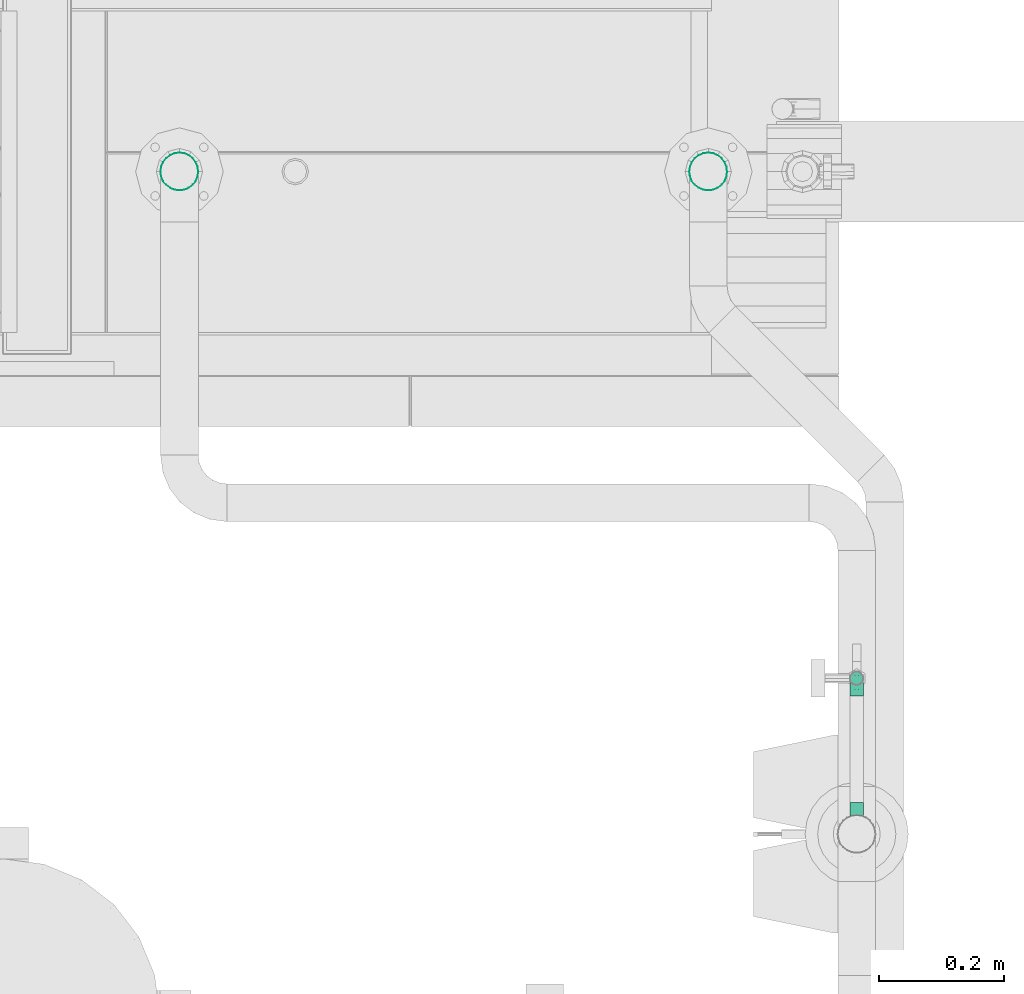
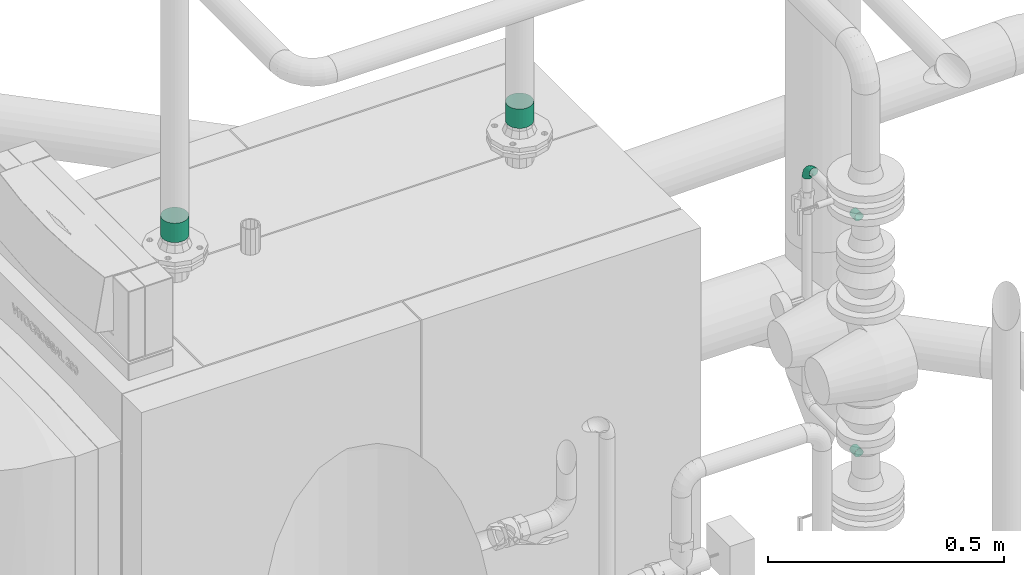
# One storey, part 197 of 374: 5 flow segments.
"""IFC2X3 building model written with IfcOpenShell, lengths in metres."""

from ifc_helpers import new_model, si_unit, direction, origin, place, context, subcontext, project, spatial, open_shell, surface_model, source, transform, mapped, element, save


model = new_model("IFC2X3")

# Units and contexts
model_context = context("Model", 3, precision=1e-05, world=origin(), true_north=direction((-0.4480736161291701, 0.8939966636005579)))
body_context = subcontext(model_context, "Body", "Model", "MODEL_VIEW")
ifc_project = project(units=[si_unit("LENGTHUNIT", "METRE"), si_unit("AREAUNIT", "SQUARE_METRE"), si_unit("VOLUMEUNIT", "CUBIC_METRE"), si_unit("PLANEANGLEUNIT", "RADIAN"), si_unit("THERMODYNAMICTEMPERATUREUNIT", "KELVIN"), si_unit("MASSUNIT", "GRAM", prefix="KILO"), si_unit("TIMEUNIT", "SECOND")], contexts=[model_context])

# Site, building, storey
site_placement = place(None, origin())
site = spatial("IfcSite", under=ifc_project, at=site_placement, Name="Site 1", CompositionType="ELEMENT")
building_placement = place(site_placement, origin())
building = spatial("IfcBuilding", under=site, at=building_placement, Name="Undefined", CompositionType="ELEMENT")
storey_placement = place(building_placement, origin())
storey = spatial("IfcBuildingStorey", under=building, at=storey_placement, Name="Rez de chauss\x8ee", CompositionType="ELEMENT", Elevation=0.0)

# Flow segments
shared_shape_1 = source(origin(), body_context, "Body", "SurfaceModel", [
    surface_model("IfcFaceBasedSurfaceModel", [(0.010089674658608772, 0.0, 1.33226763e-15), (0.010042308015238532, 0.002779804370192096, 1.33226763e-15), (4.73666433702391e-05, 0.0027798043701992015, 4.4408921e-16), (0.0, 0.0, 0.0), (-0.009607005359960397, 0.00311462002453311, -0.0025651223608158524), (-0.00974587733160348, 0.0003379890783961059, -0.0025894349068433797), (-0.01826287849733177, 0.003761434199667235, -0.007520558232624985), (-0.018483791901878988, 0.000990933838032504, -0.007591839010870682), (-0.025330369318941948, 0.004676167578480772, -0.014528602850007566), (-0.025618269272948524, 0.001914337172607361, -0.014666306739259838), (-0.030327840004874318, 0.005796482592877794, -0.023111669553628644), (-0.030663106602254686, 0.003045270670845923, -0.023330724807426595), (-0.03291472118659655, 0.00704603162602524, -0.03268483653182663), (-0.03327450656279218, 0.004306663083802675, -0.0329946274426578), (0.009903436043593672, 0.005463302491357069, -0.000713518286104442), (0.000186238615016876, 0.005463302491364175, -0.0007135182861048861), (-0.009199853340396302, 0.005788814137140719, -0.0032073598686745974), (-0.017615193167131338, 0.006417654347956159, -0.008025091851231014), (-0.02448628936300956, 0.007306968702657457, -0.014838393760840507), (-0.029344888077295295, 0.008396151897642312, -0.023182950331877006), (-0.031859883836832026, 0.009610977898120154, -0.0324900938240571), (0.009682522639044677, 0.007867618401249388, -0.002091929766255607), (0.0004071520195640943, 0.007867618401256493, -0.002091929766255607), (-0.008552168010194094, 0.008178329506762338, -0.004472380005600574), (-0.0165848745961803, 0.008778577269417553, -0.00907105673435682), (-0.023143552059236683, 0.00962745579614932, -0.015574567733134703), (-0.027781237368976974, 0.010667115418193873, -0.023539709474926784), (-0.030181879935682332, 0.011826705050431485, -0.03242367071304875), (0.009394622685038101, 0.009828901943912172, -0.0040412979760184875), (0.000695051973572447, 0.009828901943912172, -0.0040412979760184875), (-0.007708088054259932, 0.010120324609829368, -0.006273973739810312), (-0.015242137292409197, 0.010683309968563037, -0.010587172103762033), (-0.02139366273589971, 0.011479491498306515, -0.01668695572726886), (-0.0257434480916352, 0.012454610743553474, -0.02415763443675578), (-0.027995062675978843, 0.013542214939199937, -0.03249009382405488), (0.00905935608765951, 0.011213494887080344, -0.006428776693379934), (0.0010303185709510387, 0.01121349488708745, -0.006428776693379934), (-0.006725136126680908, 0.011482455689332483, -0.00848936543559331), (-0.0136784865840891, 0.01200204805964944, -0.01247011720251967), (-0.01935587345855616, 0.012736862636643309, -0.018099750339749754), (-0.02337039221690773, 0.013636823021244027, -0.024994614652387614), (-0.02544846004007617, 0.014640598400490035, -0.03268483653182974), (0.008699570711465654, 0.01192703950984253, -0.009091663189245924), (0.001390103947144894, 0.01192703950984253, -0.009091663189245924), (-0.005670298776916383, 0.01217189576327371, -0.010967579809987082), (-0.01200048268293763, 0.012644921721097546, -0.014591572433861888), (-0.017169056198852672, 0.013313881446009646, -0.01971667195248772), (-0.02082378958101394, 0.014133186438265, -0.025993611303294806), (-0.02271561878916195, 0.01504700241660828, -0.032994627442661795), (0.008339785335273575, 0.011920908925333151, -0.011848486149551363), (0.0017498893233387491, 0.011920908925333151, -0.011848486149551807), (-0.0046154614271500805, 0.012141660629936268, -0.013539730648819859), (-0.01032247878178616, 0.012568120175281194, -0.016806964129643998), (-0.014982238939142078, 0.013171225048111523, -0.02142753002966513), (-0.018277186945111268, 0.01390987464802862, -0.027086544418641), (-0.01998277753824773, 0.01473373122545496, -0.033398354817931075), (0.008004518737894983, 0.011195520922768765, -0.01451137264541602), (0.0020851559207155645, 0.011195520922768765, -0.014511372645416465), (-0.003632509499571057, 0.011393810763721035, -0.016030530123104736), (-0.008758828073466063, 0.011776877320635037, -0.018965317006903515), (-0.01294444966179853, 0.012318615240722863, -0.023115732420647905), (-0.01590413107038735, 0.012982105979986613, -0.028198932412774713), (-0.017436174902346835, 0.013722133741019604, -0.03386850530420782), (0.007716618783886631, 0.009800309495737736, -0.016898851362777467), (0.002373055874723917, 0.009800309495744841, -0.016898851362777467), (-0.0027884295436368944, 0.009979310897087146, -0.018270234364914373), (-0.007416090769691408, 0.010325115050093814, -0.020919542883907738), (-0.01119456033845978, 0.010814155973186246, -0.024666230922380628), (-0.013866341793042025, 0.011413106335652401, -0.02925496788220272), (-0.015249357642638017, 0.012081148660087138, -0.03437303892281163), (0.007495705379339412, 0.007830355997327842, -0.018848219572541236), (0.002593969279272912, 0.007830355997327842, -0.018848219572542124), (-0.00214074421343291, 0.00799455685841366, -0.02010621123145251), (-0.006385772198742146, 0.008311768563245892, -0.022536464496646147), (-0.009851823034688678, 0.008760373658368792, -0.025973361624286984), (-0.012302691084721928, 0.00930980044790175, -0.03018268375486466), (-0.013571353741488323, 0.009922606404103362, -0.034877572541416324), (0.007356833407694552, 0.0054199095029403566, -0.020226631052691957), (0.002732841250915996, 0.005419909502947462, -0.0202266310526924), (-0.0017335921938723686, 0.005574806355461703, -0.021413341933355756), (-0.005738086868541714, 0.005874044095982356, -0.023705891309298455), (-0.009007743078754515, 0.006297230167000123, -0.026948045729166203), (-0.011319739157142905, 0.006815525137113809, -0.030918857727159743), (-0.012516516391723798, 0.007393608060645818, -0.03534772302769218), (0.007309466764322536, 0.0027332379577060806, -0.020940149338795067), (0.0027802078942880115, 0.002733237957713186, -0.020940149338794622), (-0.001594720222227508, 0.0028849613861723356, -0.022102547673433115), (-0.0055171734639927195, 0.0031780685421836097, -0.024348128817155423), (-0.008719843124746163, 0.003592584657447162, -0.027523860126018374), (-0.010984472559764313, 0.004100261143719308, -0.03141332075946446), (-0.012156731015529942, 0.004666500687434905, -0.035751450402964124), (0.007356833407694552, -4.656641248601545e-05, -0.020940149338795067), (0.002732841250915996, -4.6566412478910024e-05, -0.02094014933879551), (-0.0017335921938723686, 0.00010833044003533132, -0.022126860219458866), (-0.005738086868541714, 0.00040756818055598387, -0.024419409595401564), (-0.009007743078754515, 0.0008307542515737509, -0.027661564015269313), (-0.011319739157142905, 0.0013490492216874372, -0.03163237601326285), (-0.012516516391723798, 0.0019271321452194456, -0.03606124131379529), (0.007495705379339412, -0.002730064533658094, -0.020226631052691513), (0.002593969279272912, -0.002730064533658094, -0.0202266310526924), (-0.00214074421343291, -0.002565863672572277, -0.021484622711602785), (-0.006385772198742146, -0.002248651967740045, -0.023914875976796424), (-0.009851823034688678, -0.0018000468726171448, -0.02735177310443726), (-0.012302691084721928, -0.0012506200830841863, -0.031561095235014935), (-0.013571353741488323, -0.0006378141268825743, -0.0362559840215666), (0.007716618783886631, -0.005134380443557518, -0.01884821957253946), (0.002373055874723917, -0.0051343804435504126, -0.01884821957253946), (-0.0027884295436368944, -0.004955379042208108, -0.020219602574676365), (-0.007416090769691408, -0.00460957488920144, -0.02286891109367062), (-0.01119456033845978, -0.004120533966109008, -0.026615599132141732), (-0.013866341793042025, -0.0035215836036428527, -0.031204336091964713), (-0.015249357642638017, -0.002853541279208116, -0.03632240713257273), (0.008004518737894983, -0.007095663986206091, -0.01689885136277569), (0.0020851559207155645, -0.007095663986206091, -0.016898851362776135), (-0.003632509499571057, -0.006897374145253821, -0.018418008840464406), (-0.008758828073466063, -0.006514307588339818, -0.021352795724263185), (-0.01294444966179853, -0.005972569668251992, -0.025503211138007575), (-0.01590413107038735, -0.005309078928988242, -0.030586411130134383), (-0.017436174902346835, -0.0045690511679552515, -0.03625598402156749), (0.008339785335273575, -0.008480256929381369, -0.014511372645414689), (0.0017498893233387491, -0.008480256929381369, -0.014511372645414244), (-0.0046154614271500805, -0.008259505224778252, -0.016202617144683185), (-0.01032247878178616, -0.007833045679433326, -0.019469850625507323), (-0.014982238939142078, -0.007229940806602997, -0.024090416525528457), (-0.018277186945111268, -0.006491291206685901, -0.029749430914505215), (-0.01998277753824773, -0.00566743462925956, -0.0360612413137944), (0.008699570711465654, -0.009193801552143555, -0.011848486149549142), (0.001390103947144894, -0.009193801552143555, -0.011848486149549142), (-0.005670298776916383, -0.008948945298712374, -0.013724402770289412), (-0.01200048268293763, -0.008475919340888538, -0.017348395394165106), (-0.017169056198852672, -0.007806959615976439, -0.022473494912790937), (-0.02082378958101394, -0.006987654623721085, -0.028750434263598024), (-0.02271561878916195, -0.006073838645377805, -0.035751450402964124), (0.00905935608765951, -0.009187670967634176, -0.00909166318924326), (0.0010303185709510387, -0.00918767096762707, -0.00909166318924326), (-0.006725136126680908, -0.008918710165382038, -0.011152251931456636), (-0.0136784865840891, -0.00839911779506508, -0.015133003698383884), (-0.01935587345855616, -0.007664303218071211, -0.02076263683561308), (-0.02337039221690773, -0.006764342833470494, -0.02765750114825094), (-0.02544846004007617, -0.005760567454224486, -0.03534772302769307), (0.009394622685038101, -0.008462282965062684, -0.006428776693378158), (0.000695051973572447, -0.008462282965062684, -0.006428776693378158), (-0.007708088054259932, -0.008170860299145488, -0.008661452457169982), (-0.015242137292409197, -0.0076078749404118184, -0.012974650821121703), (-0.02139366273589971, -0.00681169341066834, -0.01907443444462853), (-0.0257434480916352, -0.005836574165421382, -0.02654511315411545), (-0.027995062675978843, -0.004748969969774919, -0.03487757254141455), (0.009682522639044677, -0.007067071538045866, -0.004041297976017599), (0.0004071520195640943, -0.0070670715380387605, -0.004041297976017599), (-0.008552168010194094, -0.006756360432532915, -0.006421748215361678), (-0.0165848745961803, -0.0061561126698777, -0.011020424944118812), (-0.023143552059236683, -0.0053072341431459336, -0.017523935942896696), (-0.027781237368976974, -0.0042675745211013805, -0.02548907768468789), (-0.030181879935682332, -0.0031079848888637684, -0.03437303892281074), (0.009903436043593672, -0.005097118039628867, -0.0020919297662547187), (0.000186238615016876, -0.005097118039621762, -0.002091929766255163), (-0.009199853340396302, -0.004771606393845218, -0.004585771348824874), (-0.017615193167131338, -0.004142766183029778, -0.009403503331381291), (-0.02448628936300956, -0.0032534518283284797, -0.016216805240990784), (-0.029344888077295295, -0.0021642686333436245, -0.024561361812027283), (-0.031859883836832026, -0.0009494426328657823, -0.033868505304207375), (0.010042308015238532, -0.002686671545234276, -0.0007135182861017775), (4.73666433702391e-05, -0.0026866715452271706, -0.0007135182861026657), (-0.009607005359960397, -0.002351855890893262, -0.003278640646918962), (-0.01826287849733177, -0.0017050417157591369, -0.008234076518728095), (-0.025330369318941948, -0.0007903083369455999, -0.015242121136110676), (-0.030327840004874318, 0.0003300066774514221, -0.023825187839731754), (-0.03291472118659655, 0.0015795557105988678, -0.03339835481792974)], [open_shell([[[0, 1, 2, 3]], [[3, 2, 4, 5]], [[5, 4, 6, 7]], [[7, 6, 8, 9]], [[9, 8, 10, 11]], [[11, 10, 12, 13]], [[1, 14, 15, 2]], [[2, 15, 16, 4]], [[4, 16, 17, 6]], [[6, 17, 18, 8]], [[8, 18, 19, 10]], [[10, 19, 20, 12]], [[14, 21, 22, 15]], [[15, 22, 23, 16]], [[16, 23, 24, 17]], [[17, 24, 25, 18]], [[18, 25, 26, 19]], [[19, 26, 27, 20]], [[21, 28, 29, 22]], [[22, 29, 30, 23]], [[23, 30, 31, 24]], [[24, 31, 32, 25]], [[25, 32, 33, 26]], [[26, 33, 34, 27]], [[28, 35, 36, 29]], [[29, 36, 37, 30]], [[30, 37, 38, 31]], [[31, 38, 39, 32]], [[32, 39, 40, 33]], [[33, 40, 41, 34]], [[35, 42, 43, 36]], [[36, 43, 44, 37]], [[37, 44, 45, 38]], [[38, 45, 46, 39]], [[39, 46, 47, 40]], [[40, 47, 48, 41]], [[42, 49, 50, 43]], [[43, 50, 51, 44]], [[44, 51, 52, 45]], [[45, 52, 53, 46]], [[46, 53, 54, 47]], [[47, 54, 55, 48]], [[49, 56, 57, 50]], [[50, 57, 58, 51]], [[51, 58, 59, 52]], [[52, 59, 60, 53]], [[53, 60, 61, 54]], [[54, 61, 62, 55]], [[56, 63, 64, 57]], [[57, 64, 65, 58]], [[58, 65, 66, 59]], [[59, 66, 67, 60]], [[60, 67, 68, 61]], [[61, 68, 69, 62]], [[63, 70, 71, 64]], [[64, 71, 72, 65]], [[65, 72, 73, 66]], [[66, 73, 74, 67]], [[67, 74, 75, 68]], [[68, 75, 76, 69]], [[70, 77, 78, 71]], [[71, 78, 79, 72]], [[72, 79, 80, 73]], [[73, 80, 81, 74]], [[74, 81, 82, 75]], [[75, 82, 83, 76]], [[77, 84, 85, 78]], [[78, 85, 86, 79]], [[79, 86, 87, 80]], [[80, 87, 88, 81]], [[81, 88, 89, 82]], [[82, 89, 90, 83]], [[84, 91, 92, 85]], [[85, 92, 93, 86]], [[86, 93, 94, 87]], [[87, 94, 95, 88]], [[88, 95, 96, 89]], [[89, 96, 97, 90]], [[91, 98, 99, 92]], [[92, 99, 100, 93]], [[93, 100, 101, 94]], [[94, 101, 102, 95]], [[95, 102, 103, 96]], [[96, 103, 104, 97]], [[98, 105, 106, 99]], [[99, 106, 107, 100]], [[100, 107, 108, 101]], [[101, 108, 109, 102]], [[102, 109, 110, 103]], [[103, 110, 111, 104]], [[105, 112, 113, 106]], [[106, 113, 114, 107]], [[107, 114, 115, 108]], [[108, 115, 116, 109]], [[109, 116, 117, 110]], [[110, 117, 118, 111]], [[112, 119, 120, 113]], [[113, 120, 121, 114]], [[114, 121, 122, 115]], [[115, 122, 123, 116]], [[116, 123, 124, 117]], [[117, 124, 125, 118]], [[119, 126, 127, 120]], [[120, 127, 128, 121]], [[121, 128, 129, 122]], [[122, 129, 130, 123]], [[123, 130, 131, 124]], [[124, 131, 132, 125]], [[126, 133, 134, 127]], [[127, 134, 135, 128]], [[128, 135, 136, 129]], [[129, 136, 137, 130]], [[130, 137, 138, 131]], [[131, 138, 139, 132]], [[133, 140, 141, 134]], [[134, 141, 142, 135]], [[135, 142, 143, 136]], [[136, 143, 144, 137]], [[137, 144, 145, 138]], [[138, 145, 146, 139]], [[140, 147, 148, 141]], [[141, 148, 149, 142]], [[142, 149, 150, 143]], [[143, 150, 151, 144]], [[144, 151, 152, 145]], [[145, 152, 153, 146]], [[147, 154, 155, 148]], [[148, 155, 156, 149]], [[149, 156, 157, 150]], [[150, 157, 158, 151]], [[151, 158, 159, 152]], [[152, 159, 160, 153]], [[154, 161, 162, 155]], [[155, 162, 163, 156]], [[156, 163, 164, 157]], [[157, 164, 165, 158]], [[158, 165, 166, 159]], [[159, 166, 167, 160]], [[161, 0, 3, 162]], [[162, 3, 5, 163]], [[163, 5, 7, 164]], [[164, 7, 9, 165]], [[165, 9, 11, 166]], [[166, 11, 13, 167]]])]),
])
flow_segment_1_placement = place(storey_placement, origin())
element("IfcFlowSegment", 1, at=flow_segment_1_placement, inside=storey, Name="Tube coudé", ObjectType="Tube coudé", context=body_context, shape_type="MappedRepresentation", body=[
    mapped(shared_shape_1, transform((54.999329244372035, 12.228451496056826, 1.638155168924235), x_axis=(7.266545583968e-12, -0.9914448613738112, 0.13052619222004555), y_axis=(0.991588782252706, -0.016893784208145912, -0.12832103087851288), z_axis=(0.12942830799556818, 0.12942830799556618, 0.9831056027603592))),
])
shared_shape_2 = source(origin(), body_context, "Body", "SurfaceModel", [
    surface_model("IfcFaceBasedSurfaceModel", [(0.0, 0.007870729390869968, 7.105427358e-15), (0.0, 0.0, 0.0), (0.05000000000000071, 0.0, 0.0), (0.050000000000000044, 0.007870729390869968, 0.0), (0.0, -0.00760254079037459, -0.0020370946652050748), (0.050000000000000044, -0.007602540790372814, -0.00203709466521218), (0.0, -0.01441879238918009, -0.00597245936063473), (0.050000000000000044, -0.014418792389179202, -0.00597245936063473), (0.0, -0.019984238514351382, -0.011537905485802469), (0.050000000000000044, -0.019984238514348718, -0.011537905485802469), (0.0, -0.023919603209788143, -0.018354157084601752), (0.050000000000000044, -0.02391960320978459, -0.018354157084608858), (0.0, -0.025956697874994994, -0.025956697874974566), (0.050000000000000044, -0.025956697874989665, -0.025956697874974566), (0.0, -0.025956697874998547, -0.03382742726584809), (0.050000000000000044, -0.025956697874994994, -0.03382742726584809), (0.0, -0.02391960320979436, -0.041429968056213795), (0.050000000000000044, -0.023919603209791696, -0.041429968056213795), (0.0, -0.019984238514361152, -0.04824621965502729), (0.050000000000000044, -0.019984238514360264, -0.04824621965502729), (0.0, -0.01441879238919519, -0.05381166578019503), (0.050000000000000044, -0.014418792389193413, -0.05381166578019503), (0.0, -0.007602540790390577, -0.05774703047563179), (0.050000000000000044, -0.007602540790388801, -0.05774703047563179), (0.0, -1.7763568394e-14, -0.05978412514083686), (0.050000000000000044, -1.7763568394e-14, -0.05978412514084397), (0.0, 0.007870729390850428, -0.05978412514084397), (0.050000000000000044, 0.007870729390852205, -0.05978412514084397), (0.0, 0.015473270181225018, -0.057747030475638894), (0.050000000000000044, 0.015473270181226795, -0.057747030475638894), (0.0, 0.022289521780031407, -0.05381166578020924), (0.050000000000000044, 0.02228952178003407, -0.05381166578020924), (0.0, 0.027854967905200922, -0.048246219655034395), (0.050000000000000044, 0.027854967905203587, -0.048246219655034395), (0.0, 0.031790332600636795, -0.04142996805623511), (0.050000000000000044, 0.03179033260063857, -0.04142996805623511), (0.0, 0.033827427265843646, -0.0338274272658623), (0.050000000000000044, 0.03382742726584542, -0.0338274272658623), (0.0, 0.0338274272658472, -0.025956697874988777), (0.050000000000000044, 0.033827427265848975, -0.025956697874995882), (0.0, 0.0317903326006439, -0.01835415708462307), (0.050000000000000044, 0.031790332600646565, -0.01835415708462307), (0.0, 0.02785496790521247, -0.01153790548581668), (0.050000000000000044, 0.027854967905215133, -0.01153790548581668), (0.0, 0.022289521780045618, -0.005972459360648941), (0.050000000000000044, 0.022289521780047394, -0.005972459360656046), (0.0, 0.015473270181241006, -0.0020370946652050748), (0.050000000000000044, 0.015473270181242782, -0.00203709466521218)], [open_shell([[[0, 1, 2, 3]], [[1, 4, 5, 2]], [[4, 6, 7, 5]], [[6, 8, 9, 7]], [[8, 10, 11, 9]], [[10, 12, 13, 11]], [[12, 14, 15, 13]], [[14, 16, 17, 15]], [[16, 18, 19, 17]], [[18, 20, 21, 19]], [[20, 22, 23, 21]], [[22, 24, 25, 23]], [[24, 26, 27, 25]], [[26, 28, 29, 27]], [[28, 30, 31, 29]], [[30, 32, 33, 31]], [[32, 34, 35, 33]], [[34, 36, 37, 35]], [[36, 38, 39, 37]], [[38, 40, 41, 39]], [[40, 42, 43, 41]], [[42, 44, 45, 43]], [[44, 46, 47, 45]], [[46, 0, 3, 47]]])]),
])
flow_segment_2_placement = place(storey_placement, origin())
element("IfcFlowSegment", 2, at=flow_segment_2_placement, inside=storey, Name="Tube acier d'après DIN 2448", ObjectType="Tube acier d'après DIN 2448", context=body_context, shape_type="MappedRepresentation", body=[
    mapped(shared_shape_2, transform((53.94622216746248, 13.064016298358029, 1.3379999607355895), x_axis=(0.0, 0.0, 1.0), y_axis=(0.13052619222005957, -0.9914448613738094, 0.0), z_axis=(0.9914448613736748, 0.13052619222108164, 0.0))),
])
flow_segment_3_placement = place(storey_placement, origin())
element("IfcFlowSegment", 3, at=flow_segment_3_placement, inside=storey, Name="Tube acier d'après DIN 2448", ObjectType="Tube acier d'après DIN 2448", context=body_context, shape_type="MappedRepresentation", body=[
    mapped(shared_shape_2, transform((54.791222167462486, 13.064016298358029, 1.3379999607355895), x_axis=(0.0, 0.0, 1.0), y_axis=(0.13052619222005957, -0.9914448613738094, 0.0), z_axis=(0.9914448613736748, 0.13052619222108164, 0.0))),
])
shared_shape_3 = source(origin(), body_context, "Body", "SurfaceModel", [
    surface_model("IfcFaceBasedSurfaceModel", [(0.00012626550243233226, 0.002780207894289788, 0.0), (0.0, 0.0, 0.0), (0.020126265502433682, -7.105427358e-15, 0.0), (0.020126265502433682, 0.002780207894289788, 0.0), (-0.0003477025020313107, -0.002685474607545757, -0.0007195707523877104), (0.020126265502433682, -0.002685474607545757, -0.0007195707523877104), (-0.0008293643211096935, -0.0050932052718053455, -0.0021096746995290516), (0.020126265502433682, -0.0050932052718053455, -0.0021096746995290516), (-0.00131910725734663, -0.007059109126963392, -0.0040755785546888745), (0.020126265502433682, -0.007059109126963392, -0.0040755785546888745), (-0.0016829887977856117, -0.00844921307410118, -0.006483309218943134), (0.020126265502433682, -0.00844921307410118, -0.006483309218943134), (-0.0018173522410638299, -0.009168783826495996, -0.009168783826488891), (0.020126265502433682, -0.009168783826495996, -0.009168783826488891), (-0.0016829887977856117, -0.009168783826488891, -0.011948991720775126), (0.020126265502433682, -0.009168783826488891, -0.011948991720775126), (-0.00131910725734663, -0.00844921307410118, -0.014634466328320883), (0.020126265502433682, -0.00844921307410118, -0.014634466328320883), (-0.0008293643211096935, -0.007059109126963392, -0.017042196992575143), (0.020126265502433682, -0.007059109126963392, -0.017042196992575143), (-0.0003477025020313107, -0.00509320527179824, -0.01900810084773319), (0.020126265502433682, -0.00509320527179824, -0.01900810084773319), (0.0, -0.0026854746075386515, -0.020398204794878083), (0.020126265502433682, -0.002685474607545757, -0.020398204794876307), (0.00012626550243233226, 7.105427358e-15, -0.021117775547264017), (0.020126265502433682, 7.105427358e-15, -0.021117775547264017), (1.776356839e-15, 0.002780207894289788, -0.02111777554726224), (0.020126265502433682, 0.0027802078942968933, -0.021117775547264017), (-0.0003477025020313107, 0.005465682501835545, -0.020398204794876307), (0.020126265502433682, 0.005465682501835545, -0.020398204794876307), (-0.0008293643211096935, 0.007873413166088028, -0.01900810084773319), (0.020126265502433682, 0.007873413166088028, -0.01900810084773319), (-0.00131910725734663, 0.00983931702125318, -0.017042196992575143), (0.020126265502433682, 0.00983931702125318, -0.017042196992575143), (-0.0016829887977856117, 0.011229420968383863, -0.014634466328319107), (0.020126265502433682, 0.011229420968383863, -0.014634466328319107), (-0.0018173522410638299, 0.011948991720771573, -0.011948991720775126), (0.020126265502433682, 0.011948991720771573, -0.011948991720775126), (-0.0016829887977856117, 0.011948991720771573, -0.009168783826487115), (0.020126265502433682, 0.011948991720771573, -0.009168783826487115), (-0.00131910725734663, 0.011229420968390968, -0.006483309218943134), (0.020126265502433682, 0.011229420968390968, -0.006483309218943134), (-0.0008293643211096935, 0.009839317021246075, -0.0040755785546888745), (0.020126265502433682, 0.009839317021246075, -0.0040755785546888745), (-0.0003477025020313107, 0.007873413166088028, -0.0021096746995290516), (0.020126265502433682, 0.007873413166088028, -0.0021096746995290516), (1.776356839e-15, 0.005465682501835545, -0.000719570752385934), (0.020126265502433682, 0.005465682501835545, -0.0007195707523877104)], [open_shell([[[0, 1, 2, 3]], [[1, 4, 5, 2]], [[4, 6, 7, 5]], [[6, 8, 9, 7]], [[8, 10, 11, 9]], [[10, 12, 13, 11]], [[12, 14, 15, 13]], [[14, 16, 17, 15]], [[16, 18, 19, 17]], [[18, 20, 21, 19]], [[20, 22, 23, 21]], [[22, 24, 25, 23]], [[24, 26, 27, 25]], [[26, 28, 29, 27]], [[28, 30, 31, 29]], [[30, 32, 33, 31]], [[32, 34, 35, 33]], [[34, 36, 37, 35]], [[36, 38, 39, 37]], [[38, 40, 41, 39]], [[40, 42, 43, 41]], [[42, 44, 45, 43]], [[44, 46, 47, 45]], [[46, 0, 3, 47]]])]),
])
flow_segment_4_placement = place(storey_placement, origin())
element("IfcFlowSegment", 4, at=flow_segment_4_placement, inside=storey, Name="Piquage sur circulaire 90°", ObjectType="Piquage sur circulaire 90°", context=body_context, shape_type="MappedRepresentation", body=[
    mapped(shared_shape_3, transform((55.00208566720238, 12.027700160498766, 1.0273327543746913), x_axis=(0.0, 1.0, 0.0), y_axis=(-0.9914448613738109, 0.0, 0.1305261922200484), z_axis=(0.1305261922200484, 0.0, 0.9914448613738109))),
])
flow_segment_5_placement = place(storey_placement, origin())
element("IfcFlowSegment", 5, at=flow_segment_5_placement, inside=storey, Name="Piquage sur circulaire 90°", ObjectType="Piquage sur circulaire 90°", context=body_context, shape_type="MappedRepresentation", body=[
    mapped(shared_shape_3, transform((54.99657282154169, 12.027700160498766, 1.6185350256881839), x_axis=(0.0, 1.0, 0.0), y_axis=(0.9914448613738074, 0.0, -0.13052619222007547), z_axis=(-0.13052619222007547, 0.0, -0.9914448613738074))),
])

save(model, "model.ifc")
